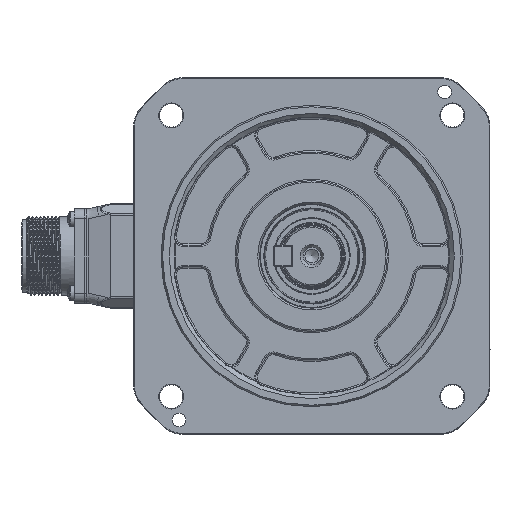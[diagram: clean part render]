
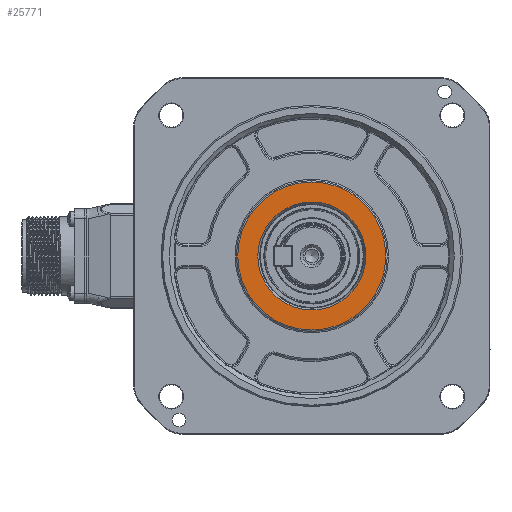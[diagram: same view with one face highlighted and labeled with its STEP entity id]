
A CAD part, left-side view. The second image highlights one B-rep face of the part: STEP entity #25771.
In plain terms, the highlighted planar face has unit normal (-1, 0, 0).
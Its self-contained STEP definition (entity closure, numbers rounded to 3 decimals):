
#12812 = DIRECTION ( 'NONE',  ( 0., 0., -1. ) ) ;
#22356 = CIRCLE ( 'NONE', #48085, 27. ) ;
#23686 = CIRCLE ( 'NONE', #94831, 19.693 ) ;
#24471 = PLANE ( 'NONE',  #35760 ) ;
#25771 = ADVANCED_FACE ( 'NONE', ( #72778, #54191 ), #24471, .F. ) ;
#30919 = CARTESIAN_POINT ( 'NONE',  ( 0.8, 0., 0. ) ) ;
#31782 = EDGE_LOOP ( 'NONE', ( #73010 ) ) ;
#35760 = AXIS2_PLACEMENT_3D ( 'NONE', #62220, #99985, #117317 ) ;
#38404 = VERTEX_POINT ( 'NONE', #39609 ) ;
#39609 = CARTESIAN_POINT ( 'NONE',  ( 0.8, 0., -19.693 ) ) ;
#42046 = VERTEX_POINT ( 'NONE', #68716 ) ;
#48085 = AXIS2_PLACEMENT_3D ( 'NONE', #30919, #49495, #94697 ) ;
#49495 = DIRECTION ( 'NONE',  ( -1., 0., 0. ) ) ;
#50011 = CARTESIAN_POINT ( 'NONE',  ( 0.8, 0., 0. ) ) ;
#54191 = FACE_OUTER_BOUND ( 'NONE', #59429, .T. ) ;
#59429 = EDGE_LOOP ( 'NONE', ( #99544 ) ) ;
#62220 = CARTESIAN_POINT ( 'NONE',  ( 0.8, 27.5, 0. ) ) ;
#68716 = CARTESIAN_POINT ( 'NONE',  ( 0.8, 0., -27. ) ) ;
#72778 = FACE_BOUND ( 'NONE', #31782, .T. ) ;
#73010 = ORIENTED_EDGE ( 'NONE', *, *, #103042, .F. ) ;
#87753 = DIRECTION ( 'NONE',  ( -1., 0., 0. ) ) ;
#94697 = DIRECTION ( 'NONE',  ( 0., 0., -1. ) ) ;
#94831 = AXIS2_PLACEMENT_3D ( 'NONE', #50011, #87753, #12812 ) ;
#99544 = ORIENTED_EDGE ( 'NONE', *, *, #113510, .T. ) ;
#99985 = DIRECTION ( 'NONE',  ( 1., 0., 0. ) ) ;
#103042 = EDGE_CURVE ( 'NONE', #38404, #38404, #23686, .T. ) ;
#113510 = EDGE_CURVE ( 'NONE', #42046, #42046, #22356, .T. ) ;
#117317 = DIRECTION ( 'NONE',  ( 0., 0., -1. ) ) ;
